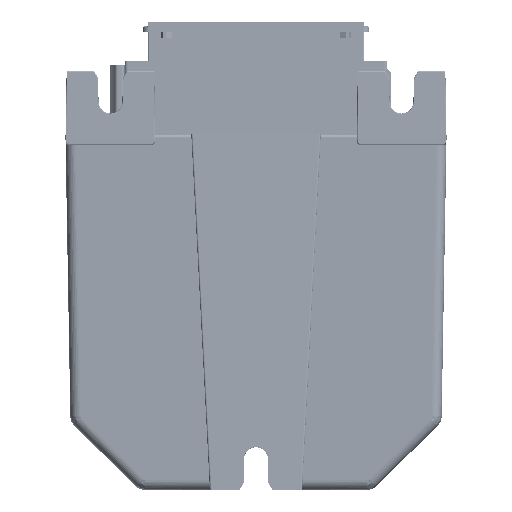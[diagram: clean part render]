
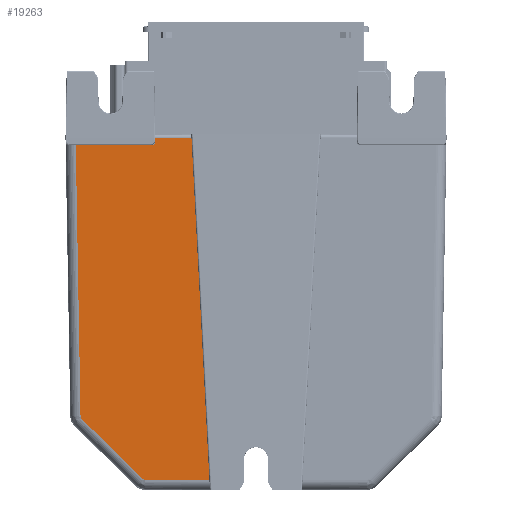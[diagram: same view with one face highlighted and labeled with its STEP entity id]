
A CAD part, front view. The second image highlights one B-rep face of the part: STEP entity #19263.
In plain terms, the highlighted planar face has unit normal (0, -1, -0.018).
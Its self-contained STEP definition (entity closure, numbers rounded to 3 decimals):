
#3388=DIRECTION('',(1.,0.,0.));
#3389=VECTOR('',#3388,22.195);
#3390=CARTESIAN_POINT('',(-52.305,-9.374,
-3.197));
#3391=LINE('',#3390,#3389);
#3392=CARTESIAN_POINT('',(-30.11,-9.374,
-3.197));
#3393=CARTESIAN_POINT('',(-29.979,-9.374,
-3.196));
#3394=CARTESIAN_POINT('',(-29.731,-9.375,
-3.157));
#3395=CARTESIAN_POINT('',(-29.378,-9.378,
-2.973));
#3396=CARTESIAN_POINT('',(-29.128,-9.382,
-2.713));
#3397=CARTESIAN_POINT('',(-28.967,-9.388,
-2.415));
#3398=CARTESIAN_POINT('',(-28.913,-9.392,
-2.158));
#3399=CARTESIAN_POINT('',(-28.91,-9.395,
-2.017));
#3401=DIRECTION('',(0.017,-0.017,1.));
#3402=VECTOR('',#3401,1.);
#3403=CARTESIAN_POINT('',(-28.91,-9.395,
-2.017));
#3404=LINE('',#3403,#3402);
#3405=DIRECTION('',(1.,0.,0.));
#3406=VECTOR('',#3405,10.567);
#3407=CARTESIAN_POINT('',(-28.893,-9.412,
-1.017));
#3408=LINE('',#3407,#3406);
#3409=DIRECTION('',(-1.,0.,0.));
#3410=VECTOR('',#3409,18.843);
#3411=CARTESIAN_POINT('',(-13.057,-7.657,
-101.552));
#3412=LINE('',#3411,#3410);
#3413=CARTESIAN_POINT('',(-31.9,-7.657,
-101.552));
#3414=CARTESIAN_POINT('',(-31.961,-7.657,
-101.552));
#3415=CARTESIAN_POINT('',(-32.082,-7.657,
-101.541));
#3416=CARTESIAN_POINT('',(-32.261,-7.658,
-101.491));
#3417=CARTESIAN_POINT('',(-32.436,-7.66,
-101.404));
#3418=CARTESIAN_POINT('',(-32.548,-7.661,
-101.318));
#3419=CARTESIAN_POINT('',(-32.601,-7.662,
-101.266));
#3421=DIRECTION('',(-0.713,-0.012,0.701));
#3422=VECTOR('',#3421,25.259);
#3423=CARTESIAN_POINT('',(-32.601,-7.662,
-101.266));
#3424=LINE('',#3423,#3422);
#3425=CARTESIAN_POINT('',(-50.616,-7.971,
-83.563));
#3426=CARTESIAN_POINT('',(-50.659,-7.972,
-83.52));
#3427=CARTESIAN_POINT('',(-50.738,-7.974,
-83.427));
#3428=CARTESIAN_POINT('',(-50.83,-7.976,
-83.266));
#3429=CARTESIAN_POINT('',(-50.894,-7.98,
-83.081));
#3430=CARTESIAN_POINT('',(-50.913,-7.982,
-82.941));
#3431=CARTESIAN_POINT('',(-50.915,-7.983,
-82.867));
#3433=DIRECTION('',(-0.017,-0.017,1.));
#3434=VECTOR('',#3433,79.695);
#3435=CARTESIAN_POINT('',(-50.915,-7.983,
-82.867));
#3436=LINE('',#3435,#3434);
#9055=DIRECTION('',(-0.052,-0.017,0.998));
#9056=VECTOR('',#9055,100.688);
#9057=CARTESIAN_POINT('',(-13.057,-7.657,
-101.552));
#9058=LINE('',#9057,#9056);
#13021=VERTEX_POINT('',#3425);
#13022=VERTEX_POINT('',#3431);
#13023=CARTESIAN_POINT('',(-32.601,-7.662,
-101.266));
#13024=VERTEX_POINT('',#13023);
#13025=VERTEX_POINT('',#3413);
#13028=CARTESIAN_POINT('',(-13.057,-7.657,
-101.552));
#13029=VERTEX_POINT('',#13028);
#13115=CARTESIAN_POINT('',(-18.326,-9.412,
-1.017));
#13116=VERTEX_POINT('',#13115);
#13118=CARTESIAN_POINT('',(-52.305,-9.374,
-3.197));
#13119=CARTESIAN_POINT('',(-30.11,-9.374,
-3.197));
#13120=VERTEX_POINT('',#13118);
#13121=VERTEX_POINT('',#13119);
#13122=VERTEX_POINT('',#3399);
#13123=CARTESIAN_POINT('',(-28.893,-9.412,
-1.017));
#13124=VERTEX_POINT('',#13123);
#19237=CARTESIAN_POINT('',(-55.361,-7.606,
-104.456));
#19238=DIRECTION('',(0.,1.,0.017));
#19239=DIRECTION('',(0.,-0.017,1.));
#19240=AXIS2_PLACEMENT_3D('',#19237,#19238,#19239);
#19241=PLANE('',#19240);
#19243=ORIENTED_EDGE('',*,*,#19242,.T.);
#19244=ORIENTED_EDGE('',*,*,#19227,.T.);
#19246=ORIENTED_EDGE('',*,*,#19245,.T.);
#19248=ORIENTED_EDGE('',*,*,#19247,.T.);
#19250=ORIENTED_EDGE('',*,*,#19249,.F.);
#19252=ORIENTED_EDGE('',*,*,#19251,.T.);
#19254=ORIENTED_EDGE('',*,*,#19253,.T.);
#19256=ORIENTED_EDGE('',*,*,#19255,.T.);
#19258=ORIENTED_EDGE('',*,*,#19257,.T.);
#19260=ORIENTED_EDGE('',*,*,#19259,.T.);
#19261=EDGE_LOOP('',(#19243,#19244,#19246,#19248,#19250,#19252,#19254,#19256,
#19258,#19260));
#19262=FACE_OUTER_BOUND('',#19261,.F.);
#19263=ADVANCED_FACE('',(#19262),#19241,.F.);
#3400=B_SPLINE_CURVE_WITH_KNOTS('',3,(#3392,#3393,#3394,#3395,#3396,#3397,#3398,
#3399),.UNSPECIFIED.,.F.,.F.,(4,1,1,1,1,4),(0.,0.2,0.4,0.6,0.8,1.),
.UNSPECIFIED.);
#3420=B_SPLINE_CURVE_WITH_KNOTS('',3,(#3413,#3414,#3415,#3416,#3417,#3418,
#3419),.UNSPECIFIED.,.F.,.F.,(4,1,1,1,4),(0.,0.25,0.5,0.75,1.),
.UNSPECIFIED.);
#3432=B_SPLINE_CURVE_WITH_KNOTS('',3,(#3425,#3426,#3427,#3428,#3429,#3430,
#3431),.UNSPECIFIED.,.F.,.F.,(4,1,1,1,4),(0.,0.25,0.5,0.75,1.),
.UNSPECIFIED.);
#19227=EDGE_CURVE('',#13121,#13122,#3400,.T.);
#19242=EDGE_CURVE('',#13120,#13121,#3391,.T.);
#19245=EDGE_CURVE('',#13122,#13124,#3404,.T.);
#19247=EDGE_CURVE('',#13124,#13116,#3408,.T.);
#19249=EDGE_CURVE('',#13029,#13116,#9058,.T.);
#19251=EDGE_CURVE('',#13029,#13025,#3412,.T.);
#19253=EDGE_CURVE('',#13025,#13024,#3420,.T.);
#19255=EDGE_CURVE('',#13024,#13021,#3424,.T.);
#19257=EDGE_CURVE('',#13021,#13022,#3432,.T.);
#19259=EDGE_CURVE('',#13022,#13120,#3436,.T.);
